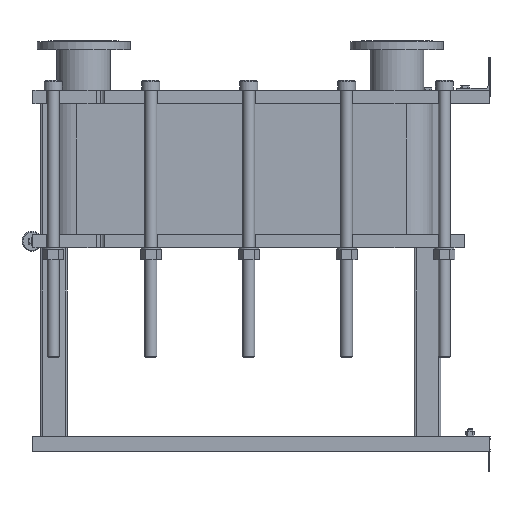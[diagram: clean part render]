
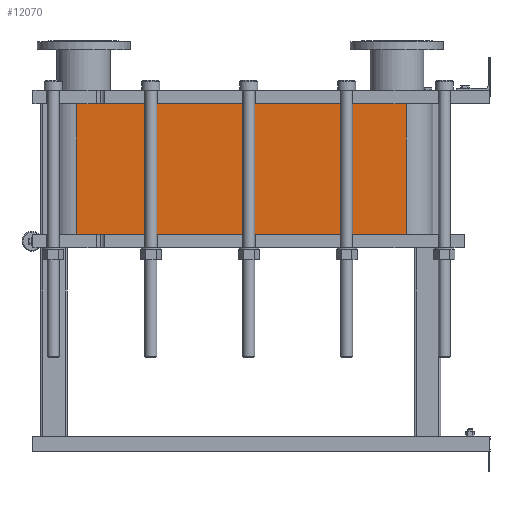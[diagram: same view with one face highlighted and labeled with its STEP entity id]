
A CAD part, left-side view. The second image highlights one B-rep face of the part: STEP entity #12070.
In plain terms, the highlighted planar face has unit normal (-1, 0, 0).
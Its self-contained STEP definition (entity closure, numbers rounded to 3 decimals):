
#1064=LINE('',#21140,#2164);
#1065=LINE('',#21144,#2165);
#1066=LINE('',#21146,#2166);
#1067=LINE('',#21147,#2167);
#2164=VECTOR('',#15790,10.);
#2165=VECTOR('',#15795,10.);
#2166=VECTOR('',#15796,10.);
#2167=VECTOR('',#15797,10.);
#3304=FACE_OUTER_BOUND('',#4091,.T.);
#4091=EDGE_LOOP('',(#9793,#9794,#9795,#9796));
#5677=VERTEX_POINT('',#21137);
#5678=VERTEX_POINT('',#21139);
#5679=VERTEX_POINT('',#21143);
#5680=VERTEX_POINT('',#21145);
#7118=EDGE_CURVE('',#5678,#5677,#1064,.T.);
#7120=EDGE_CURVE('',#5677,#5679,#1065,.T.);
#7121=EDGE_CURVE('',#5680,#5679,#1066,.T.);
#7122=EDGE_CURVE('',#5680,#5678,#1067,.T.);
#9793=ORIENTED_EDGE('',*,*,#7120,.T.);
#9794=ORIENTED_EDGE('',*,*,#7121,.F.);
#9795=ORIENTED_EDGE('',*,*,#7122,.T.);
#9796=ORIENTED_EDGE('',*,*,#7118,.T.);
#11441=PLANE('',#13191);
#12070=ADVANCED_FACE('',(#3304),#11441,.T.);
#13191=AXIS2_PLACEMENT_3D('',#21142,#15793,#15794);
#15790=DIRECTION('',(0.,0.,-1.));
#15793=DIRECTION('center_axis',(-1.,0.,0.));
#15794=DIRECTION('ref_axis',(0.,1.,0.));
#15795=DIRECTION('',(0.,-1.,0.));
#15796=DIRECTION('',(0.,0.,-1.));
#15797=DIRECTION('',(0.,1.,0.));
#21137=CARTESIAN_POINT('',(-248.152,1243.818,-393.3));
#21139=CARTESIAN_POINT('',(-248.152,1243.818,0.));
#21140=CARTESIAN_POINT('',(-248.152,1243.818,0.));
#21142=CARTESIAN_POINT('Origin',(-248.152,251.818,0.));
#21143=CARTESIAN_POINT('',(-248.152,251.818,-393.3));
#21144=CARTESIAN_POINT('',(-248.152,499.818,-393.3));
#21145=CARTESIAN_POINT('',(-248.152,251.818,0.));
#21146=CARTESIAN_POINT('',(-248.152,251.818,0.));
#21147=CARTESIAN_POINT('',(-248.152,251.818,0.));
